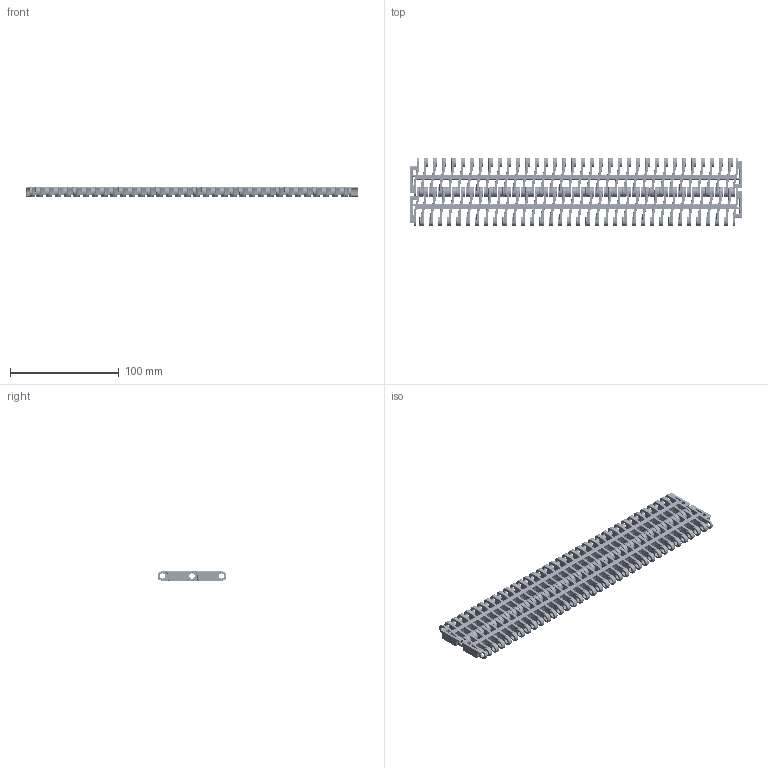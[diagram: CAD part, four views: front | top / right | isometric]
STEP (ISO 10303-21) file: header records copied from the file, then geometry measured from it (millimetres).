
FILE_DESCRIPTION(/* description */ (''),/* implementation_level */ '2;1');
FILE_NAME(/* name */ 'HS-700B-N.stp',/* time_stamp */ '2020-11-10T17:22:40+08:00',/* author */ (''),/* organization */ (''),/* preprocessor_version */ 'ST-DEVELOPER v15',/* originating_system */ 'SIEMENS PLM Software NX 8.5',/* authorisation */ '');
FILE_SCHEMA (('AP203_CONFIGURATION_CONTROLLED_3D_DESIGN_OF_MECHANICAL_PARTS_AND_ASSEMBLIES_MIM_LF { 1 0 10303 403 2 1 2}'));
Products named in the file (1): Admi13602876k0bj
Bounding box: 304.87 x 63 x 8.8 mm (x, y, z)
Volume: 59218.1 mm3; surface area: 68469.6 mm2
Topology: 6 solids, 6 shells, 6716 faces, 17128 edges, 10264 vertices
Faces by surface type: cylinder 2338, bspline 2292, plane 1462, torus 420, extrusion 196, cone 8
Full cylindrical faces by diameter (mm): 4.9 x144
Entity records: 243580 total; most frequent: CARTESIAN_POINT 98552, ORIENTED_EDGE 33672, DIRECTION 26204, EDGE_CURVE 16836, AXIS2_PLACEMENT_3D 10142, VERTEX_POINT 10128, EDGE_LOOP 7016, ADVANCED_FACE 6716
